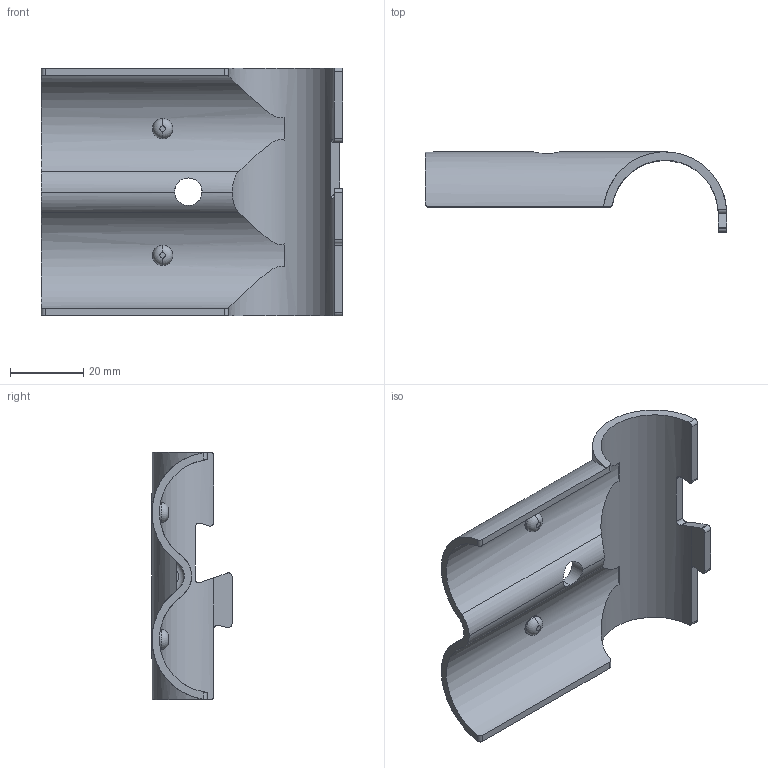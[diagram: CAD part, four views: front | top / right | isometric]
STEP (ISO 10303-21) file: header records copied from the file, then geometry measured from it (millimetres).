
FILE_DESCRIPTION (( 'STEP AP203' ), '1' );
FILE_NAME ('015.100.009.STEP', '2016-10-24T07:29:13', ( '' ), ( '' ), 'SwSTEP 2.0', 'SolidWorks 2016', '' );
FILE_SCHEMA (( 'CONFIG_CONTROL_DESIGN' ));
Length unit declared in the file: millimetre
Products named in the file (1): 015.100.009
Bounding box: 82 x 21.8 x 67.5 mm (x, y, z)
Volume: 15013.4 mm3; surface area: 15079.8 mm2
Topology: 3 solids, 3 shells, 68 faces, 181 edges, 118 vertices
Faces by surface type: cylinder 34, plane 25, torus 5, bspline 4
Entity records: 3358 total; most frequent: CARTESIAN_POINT 1666, ORIENTED_EDGE 362, DIRECTION 302, EDGE_CURVE 181, VERTEX_POINT 118, AXIS2_PLACEMENT_3D 113, VECTOR 76, LINE 76
